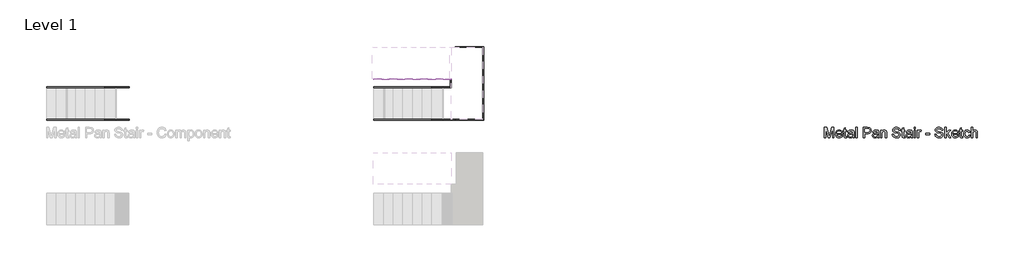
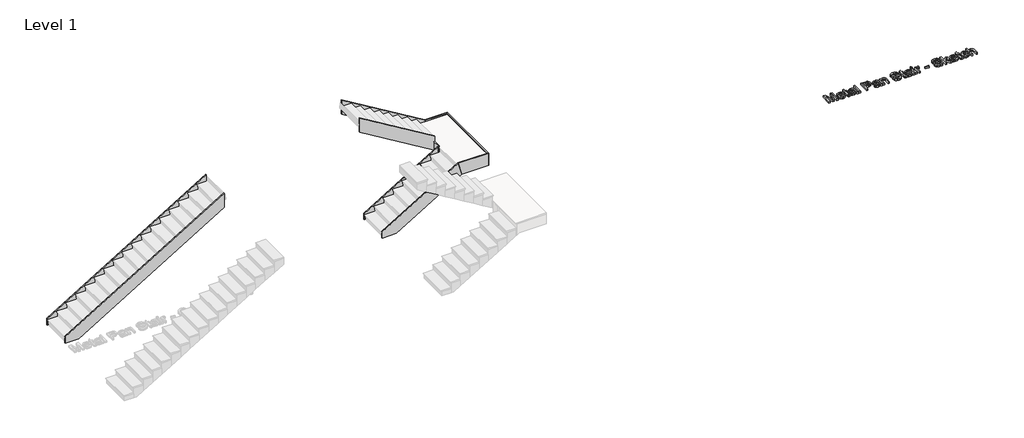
# One storey, part 26 of 26: 10 members, 1 proxy.
"""IFC4 building model written with IfcOpenShell, lengths in millimetres."""

from ifc_helpers import new_model, si_unit, frame, origin, origin_with_axes, place, context, project, spatial, polyline, outline, extrude, faceted_brep, element, save

model = new_model("IFC4")

# Units and contexts
model_context = context("Model", 3, world=origin())
ifc_project = project(units=[si_unit("LENGTHUNIT", "METRE", prefix="MILLI")], contexts=[model_context])

# Site, building, storey
site = spatial("IfcSite", under=ifc_project)
building = spatial("IfcBuilding", under=site)
storey = spatial("IfcBuildingStorey", under=building, Name="Level 1", Elevation=0.0)

# Proxy
placement = place(None, origin())
element("IfcBuildingElementProxy", 1, Name="12\" Arial", ObjectType="12\" Arial", at=placement, inside=storey, context=model_context, shape_type="SweptSolid", body=[
    extrude(outline(polyline([(-4715.4981187, 15572.8767877), (-4715.4981187, 15872.987557), (-4650.9479264, 15872.987557), (-4589.548311, 15661.4592877), (-4577.165811, 15617.2779416), (-4563.7575418, 15665.1227493), (-4503.3836956, 15872.987557), (-4438.8335033, 15872.987557), (-4438.8335033, 15572.8767877), (-4476.3473494, 15572.8767877), (-4476.3473494, 15835.4737108), (-4551.7413879, 15572.8767877), (-4602.5902341, 15572.8767877), (-4677.9842725, 15835.4737108), (-4677.9842725, 15572.8767877), (-4715.4981187, 15572.8767877)])), origin_with_axes(), (0.0, 0.0, 1.0), 50.8),
    extrude(outline(polyline([(-4223.5685033, 15638.5260185), (-4186.7873494, 15633.8367877), (-4200.0399216, 15606.1227012), (-4221.1872533, 15585.4058262), (-4249.7530946, 15572.4921243), (-4285.2611956, 15568.187557), (-4308.5379143, 15570.044474), (-4329.277686, 15575.6152252), (-4347.4805105, 15584.8998106), (-4363.1463879, 15597.89823), (-4375.7441163, 15614.2487168), (-4384.7424937, 15633.5895041), (-4390.1415201, 15655.9205918), (-4391.9411956, 15681.24198), (-4390.1232028, 15707.4219921), (-4384.6692244, 15730.4972204), (-4375.5792605, 15750.4676651), (-4362.853311, 15767.3333262), (-4347.2286475, 15780.7324368), (-4329.4425418, 15790.30323), (-4309.4949937, 15796.045706), (-4287.3860033, 15797.9598646), (-4265.9890982, 15796.0502853), (-4246.6391523, 15790.3215473), (-4229.3361655, 15780.7736507), (-4214.0801379, 15767.4065954), (-4201.6266583, 15750.577569), (-4192.7313158, 15730.6437589), (-4187.3941103, 15707.6051651), (-4185.6150418, 15681.4617877), (-4185.8348494, 15671.3506339), (-4354.4273494, 15671.3506339), (-4347.9338639, 15643.2702012), (-4332.849561, 15622.6265954), (-4311.0794408, 15609.9327012), (-4284.5285033, 15605.7014031), (-4264.5626379, 15607.661355), (-4247.7473494, 15613.5412108), (-4234.0826379, 15623.7073166), (-4223.5685033, 15638.5260185)]), holes=[polyline([(-4354.4273494, 15708.86448), (-4223.1288879, 15708.86448), (-4228.2027821, 15728.683807), (-4238.1490802, 15742.8614031), (-4260.0199456, 15756.0498646), (-4287.5325418, 15760.4460185), (-4312.819585, 15756.9382541), (-4333.7287918, 15746.4149608), (-4348.2635754, 15730.0118118), (-4354.4273494, 15708.86448)])]), origin_with_axes(), (0.0, 0.0, 1.0), 50.8),
    extrude(outline(polyline([(-4068.3842725, 15604.1627493), (-4063.6950418, 15571.7777493), (-4091.7571571, 15568.187557), (-4109.7630706, 15569.7445281), (-4123.1896571, 15574.4154416), (-4132.6780225, 15581.6141435), (-4138.8692725, 15590.75448), (-4142.2762918, 15606.4524127), (-4143.4119648, 15633.3239031), (-4143.4119648, 15755.7567877), (-4171.5473494, 15755.7567877), (-4171.5473494, 15793.2706339), (-4143.4119648, 15793.2706339), (-4143.4119648, 15846.8304416), (-4105.8981187, 15868.88448), (-4105.8981187, 15793.2706339), (-4068.3842725, 15793.2706339), (-4068.3842725, 15755.7567877), (-4105.8981187, 15755.7567877), (-4105.8981187, 15634.4229416), (-4103.9198494, 15615.0798646), (-4097.5087918, 15608.2291916), (-4084.723311, 15605.7014031), (-4068.3842725, 15604.1627493)])), origin_with_axes(), (0.0, 0.0, 1.0), 50.8),
    extrude(outline(polyline([(-3890.1935033, 15601.0121723), (-3908.1169889, 15585.6439512), (-3926.5716764, 15575.5877493), (-3945.9788639, 15570.037605), (-3966.7598494, 15568.187557), (-3998.1099216, 15572.6386627), (-4021.2355225, 15585.99198), (-4035.4955466, 15606.2692396), (-4040.2488879, 15631.4921723), (-4038.4537918, 15647.0435666), (-4033.0685033, 15661.1662108), (-4024.7616043, 15673.2556339), (-4014.2016764, 15682.7073646), (-3987.9346571, 15695.0165954), (-3955.4763879, 15700.6583262), (-3917.1199456, 15706.5931339), (-3890.413311, 15713.5537108), (-3890.1935033, 15721.9064031), (-3892.7762437, 15738.6484223), (-3900.5244648, 15749.6021723), (-3917.8526379, 15757.735057), (-3941.9948494, 15760.4460185), (-3964.3419648, 15758.6417637), (-3979.948311, 15753.2289993), (-3990.5906668, 15743.2185906), (-3998.045811, 15727.6214031), (-4035.5596571, 15732.3106339), (-4029.0478543, 15752.8260185), (-4019.3305225, 15768.9452493), (-4005.5009552, 15781.2727973), (-3986.6524456, 15790.4131339), (-3963.6001139, 15796.073182), (-3937.1590802, 15797.9598646), (-3911.7987677, 15796.2929896), (-3891.6955225, 15791.2923646), (-3876.5379504, 15783.7731098), (-3866.0146571, 15774.5503454), (-3859.0357629, 15763.1478214), (-3854.5113879, 15749.0892877), (-3852.6796571, 15716.2646723), (-3852.6796571, 15669.5921723), (-3850.7746571, 15604.4191916), (-3843.3011956, 15572.8767877), (-3880.8150418, 15572.8767877), (-3890.1935033, 15601.0121723)]), holes=[polyline([(-3890.1935033, 15676.0398646), (-3950.7138879, 15664.5365954), (-3982.9889841, 15658.4552493), (-3997.6061956, 15648.5639031), (-4002.7350418, 15634.1298646), (-3999.9416523, 15622.9746243), (-3991.5614841, 15613.8342877), (-3977.77771, 15607.7346243), (-3958.7735033, 15605.7014031), (-3938.6244648, 15607.9452733), (-3920.8200418, 15614.6768839), (-3906.3860033, 15624.595706), (-3896.3481187, 15636.4012108), (-3891.8970129, 15648.5639031), (-3890.413311, 15665.4158262), (-3890.1935033, 15676.0398646)])]), origin_with_axes(), (0.0, 0.0, 1.0), 50.8),
    extrude(outline(polyline([(-3801.0981187, 15572.8767877), (-3801.0981187, 15872.987557), (-3763.5842725, 15872.987557), (-3763.5842725, 15572.8767877), (-3801.0981187, 15572.8767877)])), origin_with_axes(), (0.0, 0.0, 1.0), 50.8),
    extrude(outline(polyline([(-3585.3935033, 15572.8767877), (-3585.3935033, 15872.987557), (-3474.170811, 15872.987557), (-3429.3300418, 15870.130057), (-3409.3367004, 15864.7905618), (-3392.8785994, 15856.0989993), (-3379.6260273, 15843.6615473), (-3369.2492725, 15827.0843839), (-3362.5451379, 15807.5306579), (-3360.3104264, 15786.1635185), (-3361.8193146, 15767.7408863), (-3366.3459793, 15750.7927973), (-3373.8904204, 15735.3192517), (-3384.4526379, 15721.3202493), (-3398.9530766, 15709.7162348), (-3418.3121812, 15701.4276531), (-3442.5299516, 15696.4545041), (-3471.6063879, 15694.7967877), (-3547.8796571, 15694.7967877), (-3547.8796571, 15572.8767877), (-3585.3935033, 15572.8767877)]), holes=[polyline([(-3547.8796571, 15732.3106339), (-3469.408311, 15732.3106339), (-3436.1440802, 15735.7542877), (-3414.163311, 15746.0852493), (-3401.9090321, 15762.6624127), (-3397.8242725, 15784.8446723), (-3400.2329985, 15801.6965954), (-3407.4591764, 15815.9108262), (-3418.6052581, 15826.6081339), (-3432.7736956, 15832.9092877), (-3470.2875418, 15835.4737108), (-3547.8796571, 15835.4737108), (-3547.8796571, 15732.3106339)])]), origin_with_axes(), (0.0, 0.0, 1.0), 50.8),
    extrude(outline(polyline([(-3172.7411956, 15601.0121723), (-3190.6646812, 15585.6439512), (-3209.1193687, 15575.5877493), (-3228.5265562, 15570.037605), (-3249.3075418, 15568.187557), (-3280.6576139, 15572.6386627), (-3303.7832148, 15585.99198), (-3318.0432389, 15606.2692396), (-3322.7965802, 15631.4921723), (-3321.0014841, 15647.0435666), (-3315.6161956, 15661.1662108), (-3307.3092966, 15673.2556339), (-3296.7493687, 15682.7073646), (-3270.4823494, 15695.0165954), (-3238.0240802, 15700.6583262), (-3199.6676379, 15706.5931339), (-3172.9610033, 15713.5537108), (-3172.7411956, 15721.9064031), (-3175.323936, 15738.6484223), (-3183.0721571, 15749.6021723), (-3200.4003302, 15757.735057), (-3224.5425418, 15760.4460185), (-3246.8896571, 15758.6417637), (-3262.4960033, 15753.2289993), (-3273.1383591, 15743.2185906), (-3280.5935033, 15727.6214031), (-3318.1073494, 15732.3106339), (-3311.5955466, 15752.8260185), (-3301.8782148, 15768.9452493), (-3288.0486475, 15781.2727973), (-3269.2001379, 15790.4131339), (-3246.1478062, 15796.073182), (-3219.7067725, 15797.9598646), (-3194.34646, 15796.2929896), (-3174.2432148, 15791.2923646), (-3159.0856427, 15783.7731098), (-3148.5623494, 15774.5503454), (-3141.5834552, 15763.1478214), (-3137.0590802, 15749.0892877), (-3135.2273494, 15716.2646723), (-3135.2273494, 15669.5921723), (-3133.3223494, 15604.4191916), (-3125.8488879, 15572.8767877), (-3163.3627341, 15572.8767877), (-3172.7411956, 15601.0121723)]), holes=[polyline([(-3172.7411956, 15676.0398646), (-3233.2615802, 15664.5365954), (-3265.5366764, 15658.4552493), (-3280.1538879, 15648.5639031), (-3285.2827341, 15634.1298646), (-3282.4893446, 15622.9746243), (-3274.1091764, 15613.8342877), (-3260.3254023, 15607.7346243), (-3241.3211956, 15605.7014031), (-3221.1721571, 15607.9452733), (-3203.3677341, 15614.6768839), (-3188.9336956, 15624.595706), (-3178.895811, 15636.4012108), (-3174.4447052, 15648.5639031), (-3172.9610033, 15665.4158262), (-3172.7411956, 15676.0398646)])]), origin_with_axes(), (0.0, 0.0, 1.0), 50.8),
    extrude(outline(polyline([(-3083.645811, 15572.8767877), (-3083.645811, 15793.2706339), (-3046.1319648, 15793.2706339), (-3046.1319648, 15762.497557), (-3033.0992004, 15778.0123166), (-3017.447061, 15789.0942877), (-2999.1755466, 15795.7434704), (-2978.2846571, 15797.9598646), (-2959.793335, 15796.1739271), (-2942.8589841, 15790.8161146), (-2928.7363398, 15782.5550089), (-2918.6801379, 15772.0591916), (-2907.433311, 15744.4733262), (-2905.4550418, 15708.205057), (-2905.4550418, 15572.8767877), (-2942.9688879, 15572.8767877), (-2942.9688879, 15703.14948), (-2947.2917725, 15736.3404416), (-2953.2723735, 15746.2226291), (-2962.5684071, 15753.8884223), (-2974.4838158, 15758.8066195), (-2988.3225418, 15760.4460185), (-3010.2941523, 15756.7642396), (-3029.0235994, 15745.7189031), (-3036.5085093, 15736.7022084), (-3041.8548735, 15724.3792396), (-3046.1319648, 15689.81448), (-3046.1319648, 15572.8767877), (-3083.645811, 15572.8767877)])), origin_with_axes(), (0.0, 0.0, 1.0), 50.8),
    extrude(outline(polyline([(-2746.0211956, 15676.0398646), (-2708.5073494, 15676.0398646), (-2704.2027821, 15655.2222445), (-2696.4179264, 15638.4893839), (-2684.2735514, 15625.2093358), (-2666.8904264, 15614.7501531), (-2645.6423494, 15607.9635906), (-2621.9031187, 15605.7014031), (-2601.0030706, 15607.4140714), (-2582.7040802, 15612.5520762), (-2567.8762196, 15620.6849608), (-2557.389561, 15631.3822685), (-2551.1525177, 15643.6640233), (-2549.0735033, 15656.5502493), (-2550.6304744, 15669.1067637), (-2555.3013879, 15679.9597685), (-2564.7897533, 15689.2191675), (-2580.7990802, 15696.9948646), (-2635.4212918, 15711.3189993), (-2671.2774216, 15720.798206), (-2694.2198494, 15729.81948), (-2712.8943446, 15742.440105), (-2726.1285994, 15757.735057), (-2734.0142004, 15775.3746243), (-2736.6427341, 15795.0290954), (-2733.3914119, 15817.000706), (-2723.6374456, 15837.4886146), (-2707.6372773, 15854.8534223), (-2685.6473494, 15867.45573), (-2659.2521091, 15875.1215233), (-2630.0360033, 15877.6767877), (-2598.3836956, 15875.0024608), (-2570.6879264, 15866.97948), (-2547.9378302, 15853.7727012), (-2531.1225418, 15835.54698), (-2520.480186, 15813.4379896), (-2516.2488879, 15788.5814031), (-2553.7627341, 15788.5814031), (-2560.6500418, 15810.9651531), (-2575.010811, 15827.1210185), (-2597.4495129, 15836.9024608), (-2628.5706187, 15840.1629416), (-2660.4244168, 15836.9390954), (-2682.2769648, 15827.267557), (-2694.9159071, 15813.0350089), (-2699.1288879, 15796.1281339), (-2696.1431668, 15781.7124127), (-2687.1860033, 15770.117557), (-2666.0111956, 15759.7499608), (-2625.9329264, 15749.162557), (-2584.5724456, 15739.106355), (-2559.5510033, 15730.3323646), (-2538.1655466, 15716.722605), (-2523.2460994, 15699.9256339), (-2514.4812677, 15680.1246243), (-2511.5596571, 15657.5027493), (-2514.9208831, 15634.3771483), (-2525.004561, 15612.6253454), (-2541.3985514, 15593.905057), (-2563.6907148, 15579.8739993), (-2590.4980946, 15571.1091675), (-2620.4377341, 15568.187557), (-2657.1914119, 15571.3381339), (-2687.4424456, 15580.7898646), (-2711.5388639, 15596.5793839), (-2729.8286956, 15618.7433262), (-2741.5700898, 15645.7430377), (-2746.0211956, 15676.0398646)])), origin_with_axes(), (0.0, 0.0, 1.0), 50.8),
    extrude(outline(polyline([(-2380.2611956, 15604.1627493), (-2375.5719648, 15571.7777493), (-2403.6340802, 15568.187557), (-2421.6399937, 15569.7445281), (-2435.0665802, 15574.4154416), (-2444.5549456, 15581.6141435), (-2450.7461956, 15590.75448), (-2454.1532148, 15606.4524127), (-2455.2888879, 15633.3239031), (-2455.2888879, 15755.7567877), (-2483.4242725, 15755.7567877), (-2483.4242725, 15793.2706339), (-2455.2888879, 15793.2706339), (-2455.2888879, 15846.8304416), (-2417.7750418, 15868.88448), (-2417.7750418, 15793.2706339), (-2380.2611956, 15793.2706339), (-2380.2611956, 15755.7567877), (-2417.7750418, 15755.7567877), (-2417.7750418, 15634.4229416), (-2415.7967725, 15615.0798646), (-2409.3857148, 15608.2291916), (-2396.6002341, 15605.7014031), (-2380.2611956, 15604.1627493)])), origin_with_axes(), (0.0, 0.0, 1.0), 50.8),
    extrude(outline(polyline([(-2202.0704264, 15601.0121723), (-2219.9939119, 15585.6439512), (-2238.4485994, 15575.5877493), (-2257.8557869, 15570.037605), (-2278.6367725, 15568.187557), (-2309.9868446, 15572.6386627), (-2333.1124456, 15585.99198), (-2347.3724696, 15606.2692396), (-2352.125811, 15631.4921723), (-2350.3307148, 15647.0435666), (-2344.9454264, 15661.1662108), (-2336.6385273, 15673.2556339), (-2326.0785994, 15682.7073646), (-2299.8115802, 15695.0165954), (-2267.353311, 15700.6583262), (-2228.9968687, 15706.5931339), (-2202.2902341, 15713.5537108), (-2202.0704264, 15721.9064031), (-2204.6531668, 15738.6484223), (-2212.4013879, 15749.6021723), (-2229.729561, 15757.735057), (-2253.8717725, 15760.4460185), (-2276.2188879, 15758.6417637), (-2291.8252341, 15753.2289993), (-2302.4675898, 15743.2185906), (-2309.9227341, 15727.6214031), (-2347.4365802, 15732.3106339), (-2340.9247773, 15752.8260185), (-2331.2074456, 15768.9452493), (-2317.3778783, 15781.2727973), (-2298.5293687, 15790.4131339), (-2275.4770369, 15796.073182), (-2249.0360033, 15797.9598646), (-2223.6756908, 15796.2929896), (-2203.5724456, 15791.2923646), (-2188.4148735, 15783.7731098), (-2177.8915802, 15774.5503454), (-2170.912686, 15763.1478214), (-2166.388311, 15749.0892877), (-2164.5565802, 15716.2646723), (-2164.5565802, 15669.5921723), (-2162.6515802, 15604.4191916), (-2155.1781187, 15572.8767877), (-2192.6919648, 15572.8767877), (-2202.0704264, 15601.0121723)]), holes=[polyline([(-2202.0704264, 15676.0398646), (-2262.590811, 15664.5365954), (-2294.8659071, 15658.4552493), (-2309.4831187, 15648.5639031), (-2314.6119648, 15634.1298646), (-2311.8185754, 15622.9746243), (-2303.4384071, 15613.8342877), (-2289.6546331, 15607.7346243), (-2270.6504264, 15605.7014031), (-2250.5013879, 15607.9452733), (-2232.6969648, 15614.6768839), (-2218.2629264, 15624.595706), (-2208.2250418, 15636.4012108), (-2203.773936, 15648.5639031), (-2202.2902341, 15665.4158262), (-2202.0704264, 15676.0398646)])]), origin_with_axes(), (0.0, 0.0, 1.0), 50.8),
    extrude(outline(polyline([(-2112.9750418, 15572.8767877), (-2112.9750418, 15793.2706339), (-2075.4611956, 15793.2706339), (-2075.4611956, 15572.8767877), (-2112.9750418, 15572.8767877)])), origin_with_axes(), (0.0, 0.0, 1.0), 50.8),
    extrude(outline(polyline([(-2112.9750418, 15835.4737108), (-2112.9750418, 15872.987557), (-2075.4611956, 15872.987557), (-2075.4611956, 15835.4737108), (-2112.9750418, 15835.4737108)])), origin_with_axes(), (0.0, 0.0, 1.0), 50.8),
    extrude(outline(polyline([(-2019.1904264, 15572.8767877), (-2019.1904264, 15793.2706339), (-1986.365811, 15793.2706339), (-1986.365811, 15760.6658262), (-1974.2397533, 15779.5692877), (-1963.0661956, 15790.7062108), (-1951.8560033, 15796.1464512), (-1939.6200418, 15797.9598646), (-1920.9363879, 15795.06573), (-1901.9596571, 15786.3833262), (-1914.4886956, 15752.7527493), (-1927.6771571, 15758.5227012), (-1940.8656187, 15760.4460185), (-1952.0666523, 15758.5959704), (-1962.077061, 15753.0458262), (-1970.1641523, 15744.2168839), (-1975.5952341, 15732.5304416), (-1980.1562437, 15711.5754416), (-1981.6765802, 15688.7154416), (-1981.6765802, 15572.8767877), (-2019.1904264, 15572.8767877)])), origin_with_axes(), (0.0, 0.0, 1.0), 50.8),
    extrude(outline(polyline([(-1780.0396571, 15661.9721723), (-1780.0396571, 15699.4860185), (-1662.8088879, 15699.4860185), (-1662.8088879, 15661.9721723), (-1780.0396571, 15661.9721723)])), origin_with_axes(), (0.0, 0.0, 1.0), 50.8),
    extrude(outline(polyline([(-1512.7535033, 15676.0398646), (-1475.2396571, 15676.0398646), (-1470.9350898, 15655.2222445), (-1463.1502341, 15638.4893839), (-1451.0058591, 15625.2093358), (-1433.6227341, 15614.7501531), (-1412.3746571, 15607.9635906), (-1388.6354264, 15605.7014031), (-1367.7353783, 15607.4140714), (-1349.4363879, 15612.5520762), (-1334.6085273, 15620.6849608), (-1324.1218687, 15631.3822685), (-1317.8848254, 15643.6640233), (-1315.805811, 15656.5502493), (-1317.3627821, 15669.1067637), (-1322.0336956, 15679.9597685), (-1331.522061, 15689.2191675), (-1347.5313879, 15696.9948646), (-1402.1535994, 15711.3189993), (-1438.0097293, 15720.798206), (-1460.9521571, 15729.81948), (-1479.6266523, 15742.440105), (-1492.8609071, 15757.735057), (-1500.7465081, 15775.3746243), (-1503.3750418, 15795.0290954), (-1500.1237196, 15817.000706), (-1490.3697533, 15837.4886146), (-1474.369585, 15854.8534223), (-1452.3796571, 15867.45573), (-1425.9844168, 15875.1215233), (-1396.768311, 15877.6767877), (-1365.1160033, 15875.0024608), (-1337.4202341, 15866.97948), (-1314.6701379, 15853.7727012), (-1297.8548494, 15835.54698), (-1287.2124937, 15813.4379896), (-1282.9811956, 15788.5814031), (-1320.4950418, 15788.5814031), (-1327.3823494, 15810.9651531), (-1341.7431187, 15827.1210185), (-1364.1818206, 15836.9024608), (-1395.3029264, 15840.1629416), (-1427.1567244, 15836.9390954), (-1449.0092725, 15827.267557), (-1461.6482148, 15813.0350089), (-1465.8611956, 15796.1281339), (-1462.8754744, 15781.7124127), (-1453.918311, 15770.117557), (-1432.7435033, 15759.7499608), (-1392.6652341, 15749.162557), (-1351.3047533, 15739.106355), (-1326.283311, 15730.3323646), (-1304.8978543, 15716.722605), (-1289.9784071, 15699.9256339), (-1281.2135754, 15680.1246243), (-1278.2919648, 15657.5027493), (-1281.6531908, 15634.3771483), (-1291.7368687, 15612.6253454), (-1308.1308591, 15593.905057), (-1330.4230225, 15579.8739993), (-1357.2304023, 15571.1091675), (-1387.1700418, 15568.187557), (-1423.9237196, 15571.3381339), (-1454.1747533, 15580.7898646), (-1478.2711716, 15596.5793839), (-1496.5610033, 15618.7433262), (-1508.3023975, 15645.7430377), (-1512.7535033, 15676.0398646)])), origin_with_axes(), (0.0, 0.0, 1.0), 50.8),
    extrude(outline(polyline([(-1226.7104264, 15572.8767877), (-1226.7104264, 15872.987557), (-1189.1965802, 15872.987557), (-1189.1965802, 15711.72198), (-1105.0835033, 15793.2706339), (-1053.2088879, 15793.2706339), (-1138.3477341, 15710.6962108), (-1048.5196571, 15572.8767877), (-1092.3346571, 15572.8767877), (-1165.2375418, 15684.6123646), (-1189.1965802, 15661.3860185), (-1189.1965802, 15572.8767877), (-1226.7104264, 15572.8767877)])), origin_with_axes(), (0.0, 0.0, 1.0), 50.8),
    extrude(outline(polyline([(-861.3900418, 15638.5260185), (-824.6088879, 15633.8367877), (-837.86146, 15606.1227012), (-859.0087918, 15585.4058262), (-887.5746331, 15572.4921243), (-923.0827341, 15568.187557), (-946.3594528, 15570.044474), (-967.0992244, 15575.6152252), (-985.302049, 15584.8998106), (-1000.9679264, 15597.89823), (-1013.5656547, 15614.2487168), (-1022.5640321, 15633.5895041), (-1027.9630586, 15655.9205918), (-1029.7627341, 15681.24198), (-1027.9447413, 15707.4219921), (-1022.4907629, 15730.4972204), (-1013.400799, 15750.4676651), (-1000.6748494, 15767.3333262), (-985.050186, 15780.7324368), (-967.2640802, 15790.30323), (-947.3165321, 15796.045706), (-925.2075418, 15797.9598646), (-903.8106367, 15796.0502853), (-884.4606908, 15790.3215473), (-867.157704, 15780.7736507), (-851.9016764, 15767.4065954), (-839.4481968, 15750.577569), (-830.5528543, 15730.6437589), (-825.2156487, 15707.6051651), (-823.4365802, 15681.4617877), (-823.6563879, 15671.3506339), (-992.2488879, 15671.3506339), (-985.7554023, 15643.2702012), (-970.6710994, 15622.6265954), (-948.9009793, 15609.9327012), (-922.3500418, 15605.7014031), (-902.3841764, 15607.661355), (-885.5688879, 15613.5412108), (-871.9041764, 15623.7073166), (-861.3900418, 15638.5260185)]), holes=[polyline([(-992.2488879, 15708.86448), (-860.9504264, 15708.86448), (-866.0243206, 15728.683807), (-875.9706187, 15742.8614031), (-897.8414841, 15756.0498646), (-925.3540802, 15760.4460185), (-950.6411235, 15756.9382541), (-971.5503302, 15746.4149608), (-986.0851139, 15730.0118118), (-992.2488879, 15708.86448)])]), origin_with_axes(), (0.0, 0.0, 1.0), 50.8),
    extrude(outline(polyline([(-706.205811, 15604.1627493), (-701.5165802, 15571.7777493), (-729.5786956, 15568.187557), (-747.5846091, 15569.7445281), (-761.0111956, 15574.4154416), (-770.499561, 15581.6141435), (-776.690811, 15590.75448), (-780.0978302, 15606.4524127), (-781.2335033, 15633.3239031), (-781.2335033, 15755.7567877), (-809.3688879, 15755.7567877), (-809.3688879, 15793.2706339), (-781.2335033, 15793.2706339), (-781.2335033, 15846.8304416), (-743.7196571, 15868.88448), (-743.7196571, 15793.2706339), (-706.205811, 15793.2706339), (-706.205811, 15755.7567877), (-743.7196571, 15755.7567877), (-743.7196571, 15634.4229416), (-741.7413879, 15615.0798646), (-735.3303302, 15608.2291916), (-722.5448494, 15605.7014031), (-706.205811, 15604.1627493)])), origin_with_axes(), (0.0, 0.0, 1.0), 50.8),
    extrude(outline(polyline([(-528.0150418, 15652.5937108), (-490.5011956, 15647.90448), (-500.9603783, 15614.5395041), (-520.6148494, 15589.32573), (-547.614561, 15573.4721002), (-580.1094648, 15568.187557), (-601.1491824, 15570.030736), (-620.0137196, 15575.5602733), (-636.7030766, 15584.7761687), (-651.2172533, 15597.6784223), (-662.9655165, 15614.0243298), (-671.3571331, 15633.5711868), (-676.392103, 15656.3189933), (-678.0704264, 15682.2677493), (-675.2037677, 15715.6510425), (-666.6037918, 15744.58323), (-652.1331187, 15767.946956), (-631.6543687, 15784.6248646), (-607.1549696, 15794.6261146), (-580.6223494, 15797.9598646), (-548.9242485, 15793.3805377), (-523.5822533, 15779.642557), (-505.4023254, 15757.4786146), (-495.1904264, 15727.6214031), (-532.7042725, 15722.9321723), (-539.5091523, 15739.2986868), (-550.1057148, 15751.0309223), (-563.9078062, 15758.0922445), (-580.3292725, 15760.4460185), (-604.5722293, 15755.8117396), (-623.814561, 15741.9089031), (-636.3710754, 15717.9864993), (-640.5565802, 15683.2935185), (-636.4626619, 15648.1334464), (-624.1809071, 15624.1286146), (-605.2866043, 15610.308206), (-581.3550418, 15605.7014031), (-561.9295369, 15608.5772204), (-546.0026379, 15617.2046723), (-534.4169408, 15631.8035666), (-528.0150418, 15652.5937108)])), origin_with_axes(), (0.0, 0.0, 1.0), 50.8),
    extrude(outline(polyline([(-457.6765802, 15572.8767877), (-457.6765802, 15872.987557), (-420.1627341, 15872.987557), (-420.1627341, 15762.6440954), (-406.3835393, 15778.0947445), (-390.9099937, 15789.1309223), (-373.742097, 15795.7526291), (-354.8798494, 15797.9598646), (-332.2213398, 15795.5511387), (-312.7500418, 15788.3249608), (-297.4184552, 15776.8491675), (-287.1790802, 15761.6915954), (-281.4091283, 15740.8648166), (-279.485811, 15712.3814031), (-279.485811, 15572.8767877), (-316.9996571, 15572.8767877), (-316.9996571, 15708.4981339), (-319.9853783, 15731.9809223), (-328.9425418, 15748.0635185), (-343.3765802, 15757.3503935), (-362.7929264, 15760.4460185), (-378.6465562, 15758.3578454), (-393.5293687, 15752.0933262), (-405.8569168, 15742.256932), (-414.0447533, 15729.4531339), (-418.6332389, 15712.436355), (-420.1627341, 15689.9610185), (-420.1627341, 15572.8767877), (-457.6765802, 15572.8767877)])), origin_with_axes(), (0.0, 0.0, 1.0), 50.8),
])

# Members
element("IfcMember", 2, ObjectType="Stringer - Unassigned - 1\" Width", at=placement, inside=storey, context=model_context, shape_type="SweptSolid", body=[
    extrude(outline(polyline([(196.0307662, -27230.8481446), (0.0, -27230.8481446), (0.0, -26819.2058382), (2629.186481, -22481.0481446), (3074.6974329, -22481.0481446), (196.0307662, -27230.8481446)])), frame((0.0, 17020.7635042, 0.0), z_axis=(0.0, 1.0, 0.0), x_axis=(0.0, 0.0, 1.0)), (0.0, 0.0, 1.0), 25.4),
])
element("IfcMember", 3, ObjectType="Stringer - Unassigned - 1\" Width", at=placement, inside=storey, context=model_context, shape_type="SweptSolid", body=[
    extrude(outline(polyline([(196.0307662, -27230.8481446), (0.0, -27230.8481446), (0.0, -26819.2058382), (2629.186481, -22481.0481446), (3074.6974329, -22481.0481446), (196.0307662, -27230.8481446)])), frame((0.0, 16080.9635042, 0.0), z_axis=(0.0, 1.0, 0.0), x_axis=(0.0, 0.0, 1.0)), (0.0, 0.0, 1.0), 25.4),
])
element("IfcMember", 4, ObjectType="Stringer - Unassigned - 1\" Width", at=placement, inside=storey, context=model_context, shape_type="SweptSolid", body=[
    extrude(outline(polyline([(196.0307662, -17756.6481446), (0.0, -17756.6481446), (0.0, -17345.0058382), (1089.7925416, -15546.8481446), (1535.3034935, -15546.8481446), (196.0307662, -17756.6481446)])), frame((0.0, 17020.7635042, 0.0), z_axis=(0.0, 1.0, 0.0), x_axis=(0.0, 0.0, 1.0)), (0.0, 0.0, 1.0), 25.4),
])
element("IfcMember", 5, ObjectType="Stringer - Unassigned - 1\" Width", at=placement, inside=storey, context=model_context, shape_type="SweptSolid", body=[
    extrude(outline(polyline([(196.0307662, -17756.6481446), (0.0, -17756.6481446), (0.0, -17345.0058382), (1184.275, -15390.9520882), (1565.275, -15497.3951589), (196.0307662, -17756.6481446)])), frame((0.0, 16080.9635042, 0.0), z_axis=(0.0, 1.0, 0.0), x_axis=(0.0, 0.0, 1.0)), (0.0, 0.0, 1.0), 25.4),
])
element("IfcMember", 6, ObjectType="Stringer - Unassigned - 1\" Width", at=placement, inside=storey, context=model_context, shape_type="SweptSolid", body=[
    extrude(outline(polyline([(1274.5198143, -15521.4481446), (1720.0307662, -15521.4481446), (3074.6974329, -17756.6481446), (2629.186481, -17756.6481446), (1274.5198143, -15521.4481446)])), frame((0.0, 17249.3635042, 0.0), z_axis=(0.0, 1.0, 0.0), x_axis=(0.0, 0.0, 1.0)), (0.0, 0.0, 1.0), 25.4),
])
element("IfcMember", 7, ObjectType="Stringer - Unassigned - 1\" Width", at=placement, inside=storey, context=model_context, shape_type="SweptSolid", body=[
    extrude(outline(polyline([(1184.275, -15372.544201), (1565.275, -15266.1011304), (3074.6974329, -17756.6481446), (2629.186481, -17756.6481446), (1184.275, -15372.544201)])), frame((0.0, 18189.1635042, 0.0), z_axis=(0.0, 1.0, 0.0), x_axis=(0.0, 0.0, 1.0)), (0.0, 0.0, 1.0), 25.4),
])
element("IfcMember", 8, ObjectType="Stringer - Unassigned - 1\" Width", at=placement, inside=storey, context=model_context, shape_type="SweptSolid", body=[
    extrude(outline(polyline([(-15546.8481446, 17249.3635042), (-15521.4481446, 17249.3635042), (-15521.4481446, 17020.7635042), (-15546.8481446, 17020.7635042), (-15546.8481446, 17249.3635042)])), frame((0.0, 0.0, 1184.275), z_axis=(0.0, 0.0, 1.0), x_axis=(1.0, 0.0, 0.0)), (0.0, 0.0, 1.0), 381.0),
])
element("IfcMember", 9, ObjectType="Stringer - Unassigned - 1\" Width", at=placement, inside=storey, context=model_context, shape_type="Brep", body=[
    faceted_brep([(-15497.3951589, 16106.3635042, 1565.275), (-15497.3951589, 16080.9635042, 1565.275), (-14581.6481446, 16080.9635042, 1565.275), (-14607.0481446, 16106.3635042, 1565.275), (-15390.9520882, 16106.3635042, 1184.275), (-14607.0481446, 16106.3635042, 1184.275), (-15390.9520882, 16080.9635042, 1184.275), (-14581.6481446, 16080.9635042, 1184.275)], [[[0, 1, 2, 3]], [[4, 0, 3, 5]], [[6, 4, 5, 7]], [[1, 6, 7, 2]], [[1, 0, 4, 6]], [[2, 7, 5, 3]]]),
])
element("IfcMember", 10, ObjectType="Stringer - Unassigned - 1\" Width", at=placement, inside=storey, context=model_context, shape_type="SweptSolid", body=[
    extrude(outline(polyline([(-14581.6481446, 16080.9635042), (-14607.0481446, 16106.3635042), (-14607.0481446, 18189.1635042), (-14581.6481446, 18214.5635042), (-14581.6481446, 16080.9635042)])), frame((0.0, 0.0, 1184.275), z_axis=(0.0, 0.0, 1.0), x_axis=(1.0, 0.0, 0.0)), (0.0, 0.0, 1.0), 381.0),
])
element("IfcMember", 11, ObjectType="Stringer - Unassigned - 1\" Width", at=placement, inside=storey, context=model_context, shape_type="Brep", body=[
    faceted_brep([(-14607.0481446, 18189.1635042, 1565.275), (-14581.6481446, 18214.5635042, 1565.275), (-15266.1011304, 18214.5635042, 1565.275), (-15266.1011304, 18189.1635042, 1565.275), (-14607.0481446, 18189.1635042, 1184.275), (-15372.544201, 18189.1635042, 1184.275), (-14581.6481446, 18214.5635042, 1184.275), (-15372.544201, 18214.5635042, 1184.275)], [[[0, 1, 2, 3]], [[4, 0, 3, 5]], [[6, 4, 5, 7]], [[1, 6, 7, 2]], [[1, 0, 4, 6]], [[2, 7, 5, 3]]]),
])

save(model, "model.ifc")
